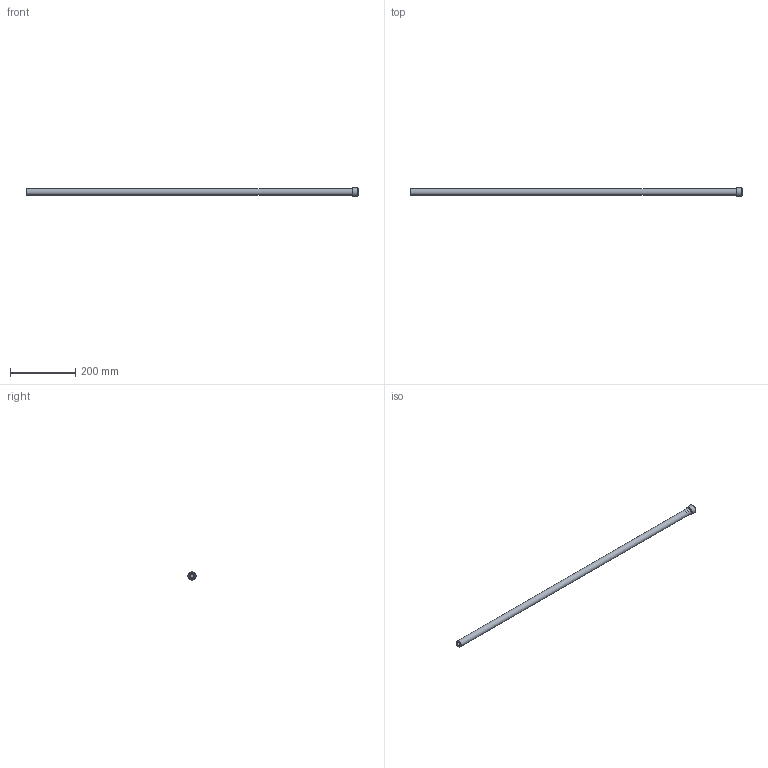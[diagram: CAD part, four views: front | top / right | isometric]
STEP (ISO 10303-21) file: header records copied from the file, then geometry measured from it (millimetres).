
FILE_DESCRIPTION( ( 'STEP AP203' ), '1' );
FILE_NAME( 'C:/Temp/Ganter_Step_05_03_2020/data/3_5/gn880_1/gn880_1_ans_abl/gn_880_1_a/Connector piece with drain hose GN 880.1-22-A-1000-T.stp', '2020-03-12T13:42:28', ( 'License CC BY-ND 4.0' ), ( 'CADENAS' ), ' ', 'PARTsolutions', ' ' );
FILE_SCHEMA( ( 'CONFIG_CONTROL_DESIGN' ) );
Length unit declared in the file: millimetre
Products named in the file (5): Connector piece with drain hose GN 880.1-22-A-1000-T; _Anschlussstueck mit Ablassschlauch GN 880.1-22-A-1000-T_a; _Anschlussstueck mit Ablassschlauch GN 880.1-22-A-1000-T_s; _Anschlussstueck mit Ablassschlauch GN 880.1-22-A-1000-T_dk; _Anschlussstueck mit Ablassschlauch GN 880.1-22-A-1000-T_dk2
Assembly tree (4 placements, depth 2):
  Connector piece with drain hose GN 880.1-22-A-1000-T
    _Anschlussstueck mit Ablassschlauch GN 880.1-22-A-1000-T_a
    _Anschlussstueck mit Ablassschlauch GN 880.1-22-A-1000-T_s
    _Anschlussstueck mit Ablassschlauch GN 880.1-22-A-1000-T_dk
    _Anschlussstueck mit Ablassschlauch GN 880.1-22-A-1000-T_dk2
Bounding box: 1020 x 26 x 26 mm (x, y, z)
Volume: 169724.4 mm3; surface area: 115679.9 mm2
Topology: 4 solids, 4 shells, 44 faces, 66 edges, 42 vertices
Faces by surface type: plane 20, cylinder 15, cone 6, torus 3
Full cylindrical faces by diameter (mm): 8.5 x1, 9.5 x1, 10.5 x2, 12 x1, 14 x2, 15 x3, 20 x3, 20.376 x1, 26 x1
Entity records: 1042 total; most frequent: DIRECTION 182, CARTESIAN_POINT 134, AXIS2_PLACEMENT_3D 91, EDGE_LOOP 84, ORIENTED_EDGE 84, FACE_OUTER_BOUND 62, ADVANCED_FACE 44, VERTEX_POINT 43
